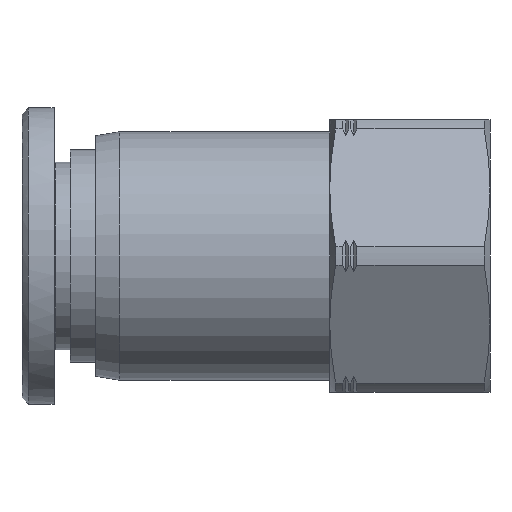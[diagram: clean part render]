
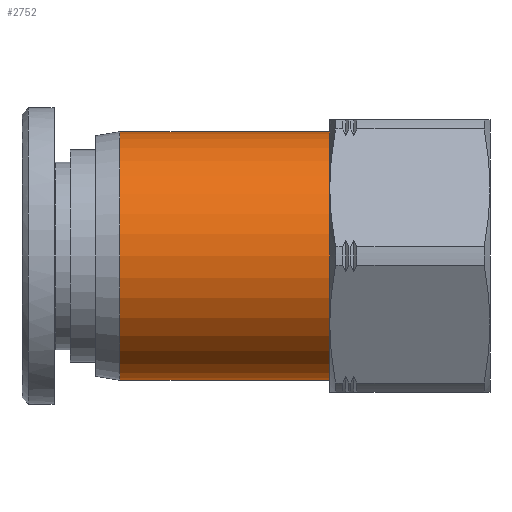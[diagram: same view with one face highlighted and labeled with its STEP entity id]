
A CAD part, front view. The second image highlights one B-rep face of the part: STEP entity #2752.
In plain terms, the highlighted cylindrical face has radius 7.75 mm (diameter 15.5 mm), a full revolution.
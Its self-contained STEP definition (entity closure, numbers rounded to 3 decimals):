
#2609=CARTESIAN_POINT('',(14.6,0.,-7.75));
#2610=VERTEX_POINT('',#2609);
#2611=CARTESIAN_POINT('',(14.6,0.0,0.0));
#2612=DIRECTION('',(-1.0,0.0,0.0));
#2613=DIRECTION('',(0.0,1.0,0.0));
#2614=AXIS2_PLACEMENT_3D('',#2611,#2612,#2613);
#2615=CIRCLE('',#2614,7.75);
#2616=EDGE_CURVE('',#2610,#2610,#2615,.T.);
#2726=CARTESIAN_POINT('',(1.5,7.75,0.0));
#2727=VERTEX_POINT('',#2726);
#2728=CARTESIAN_POINT('',(1.5,0.0,0.0));
#2729=DIRECTION('',(1.0,0.0,0.0));
#2730=DIRECTION('',(0.0,1.0,0.0));
#2731=AXIS2_PLACEMENT_3D('',#2728,#2729,#2730);
#2732=CIRCLE('',#2731,7.75);
#2733=EDGE_CURVE('',#2727,#2727,#2732,.T.);
#2741=CARTESIAN_POINT('',(13.05,0.0,0.0));
#2742=DIRECTION('',(1.0,0.0,0.0));
#2743=DIRECTION('',(0.0,1.0,0.0));
#2744=AXIS2_PLACEMENT_3D('',#2741,#2742,#2743);
#2745=CYLINDRICAL_SURFACE('',#2744,7.75);
#2746=ORIENTED_EDGE('',*,*,#2616,.T.);
#2747=EDGE_LOOP('',(#2746));
#2748=FACE_OUTER_BOUND('',#2747,.T.);
#2749=ORIENTED_EDGE('',*,*,#2733,.T.);
#2750=EDGE_LOOP('',(#2749));
#2751=FACE_BOUND('',#2750,.T.);
#2752=ADVANCED_FACE('',(#2748,#2751),#2745,.T.);
